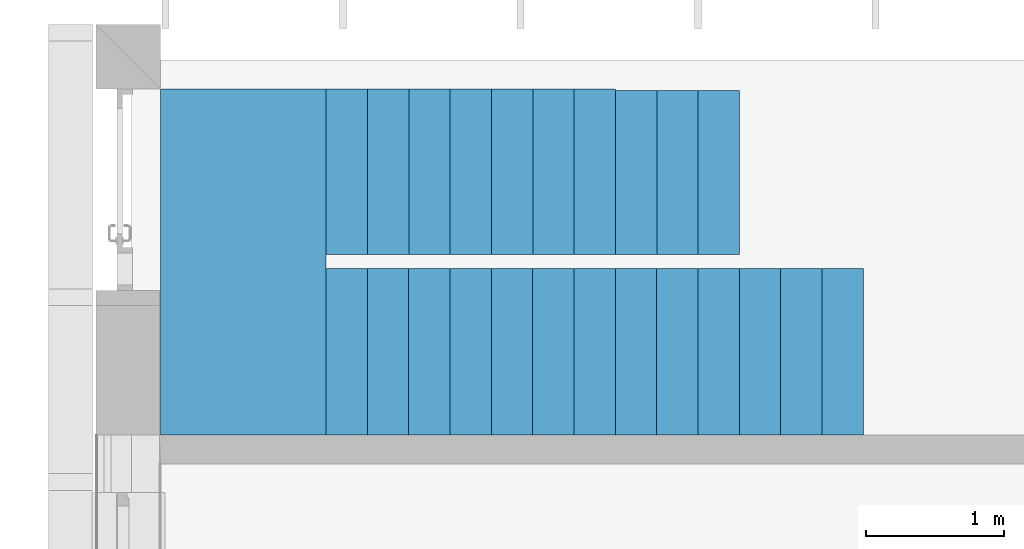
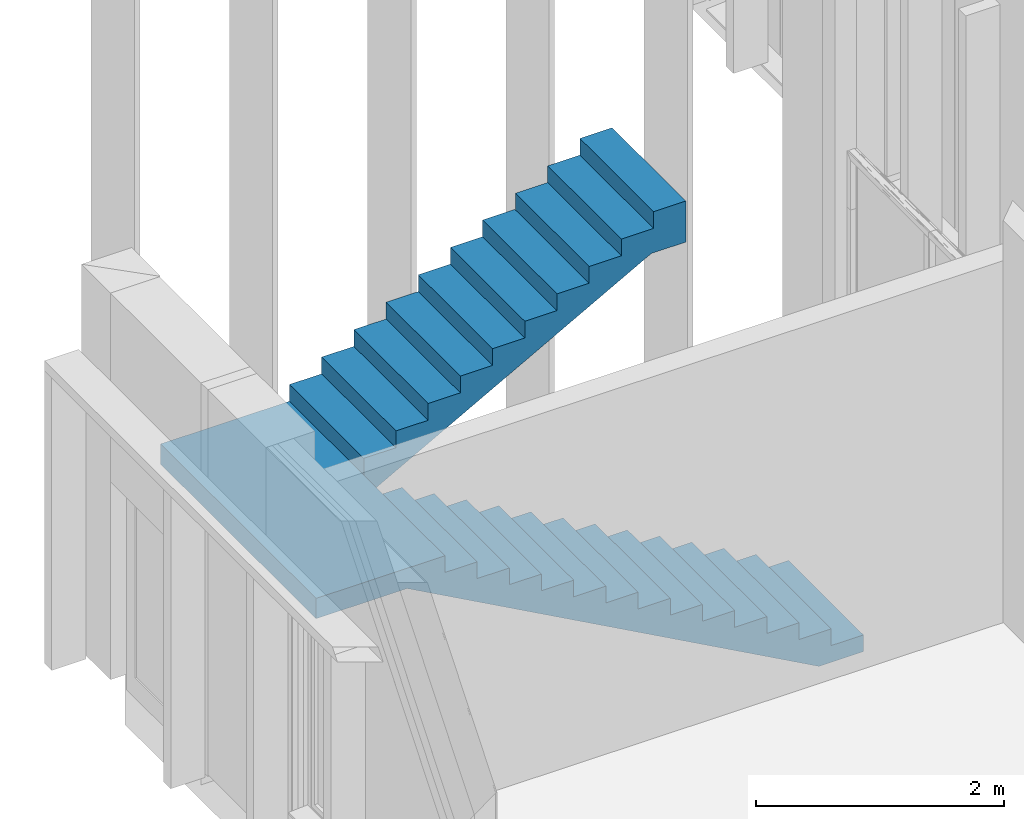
# One storey, part 45 of 89: 1 stair.
"""IFC2X3 building model written with IfcOpenShell, lengths in millimetres."""

from ifc_helpers import new_model, entity, si_unit, converted_unit, derived_unit, money_unit, direction, frame, origin_with_axes, place, context, subcontext, project, spatial, faceted_brep, material, material_list, element, save


model = new_model("IFC2X3")

# Units and contexts
model_context = context("Model", 3, precision=0.01, world=origin_with_axes(), true_north=direction((0.0, 1.0)))
body_context = subcontext(model_context, "Body", "Model", "MODEL_VIEW")
ifc_project = project(units=[si_unit("LENGTHUNIT", "METRE", prefix="MILLI"), si_unit("AREAUNIT", "SQUARE_METRE"), si_unit("VOLUMEUNIT", "CUBIC_METRE"), converted_unit("PLANEANGLEUNIT", "DEGREE", entity("IfcPlaneAngleMeasure", 0.0174532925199), si_unit("PLANEANGLEUNIT", "RADIAN"), dimensions=[0, 0, 0, 0, 0, 0, 0]), si_unit("SOLIDANGLEUNIT", "STERADIAN"), money_unit("EUR"), converted_unit("TIMEUNIT", "Year", entity("IfcTimeMeasure", 31556926.0), si_unit("TIMEUNIT", "SECOND"), dimensions=[0, 0, 1, 0, 0, 0, 0]), si_unit("MASSUNIT", "GRAM", prefix="KILO"), si_unit("THERMODYNAMICTEMPERATUREUNIT", "DEGREE_CELSIUS"), si_unit("LUMINOUSINTENSITYUNIT", "LUMEN"), si_unit("ENERGYUNIT", "JOULE", prefix="MEGA"), derived_unit("THERMALCONDUCTANCEUNIT", [(si_unit("POWERUNIT", "WATT"), 1), (si_unit("LENGTHUNIT", "METRE"), -1), (si_unit("THERMODYNAMICTEMPERATUREUNIT", "KELVIN"), -1)]), derived_unit("SPECIFICHEATCAPACITYUNIT", [(si_unit("ENERGYUNIT", "JOULE"), 1), (si_unit("MASSUNIT", "GRAM", prefix="KILO"), -1), (si_unit("THERMODYNAMICTEMPERATUREUNIT", "KELVIN"), -1)]), derived_unit("MASSDENSITYUNIT", [(si_unit("MASSUNIT", "GRAM", prefix="KILO"), 1), (si_unit("VOLUMEUNIT", "CUBIC_METRE"), -1)])], contexts=[model_context])

# Site, building, storey
site_placement = place(None, origin_with_axes())
site = spatial("IfcSite", under=ifc_project, at=site_placement, Name="Puškini 31, Narva", CompositionType="ELEMENT")
building_placement = place(site_placement, origin_with_axes())
building = spatial("IfcBuilding", under=site, at=building_placement, Name="Narva Riigigümnaasium", CompositionType="ELEMENT")
storey_placement = place(building_placement, frame((0.0, 0.0, -3300.0), z_axis=(0.0, 0.0, 1.0), x_axis=(1.0, 0.0, 0.0)))
storey = spatial("IfcBuildingStorey", under=building, at=storey_placement, Name="1.korrus -3.3", CompositionType="ELEMENT", Elevation=-3300.0)

# Stair
ifc_material = material(Name="Betoon element")
ifc_material_list = material_list([ifc_material, ifc_material, ifc_material])
stair_placement = place(storey_placement, frame((33509.3293405, 222489.999999, 0.0), z_axis=(0.0, 0.0, 1.0), x_axis=(-1.0, 0.0, 0.0)))
element("IfcStair", 1, at=stair_placement, inside=storey, material=ifc_material_list, Name="G-TR-07", ShapeType="NOTDEFINED", context=body_context, shape_type="Brep", body=[
    faceted_brep([(3900.00001091, 6.0760909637e-06, 2110.0), (3900.00001091, 1209.9999995, 2110.0), (3899.99999992, 1209.9999995, 2145.0), (3899.99999992, 0.0, 2145.0), (4251.37135303, 6.0760909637e-06, 2110.0), (4251.37135303, 1209.9999995, 2110.0), (3900.00001091, 1209.9999995, 1916.74576184), (3799.99999992, 1209.9999995, 1861.74575579), (3699.99999993, 1209.9999995, 1806.74575579), (3599.99999993, 1209.9999995, 1751.74575579), (3499.99999993, 1209.9999995, 1696.74575579), (3399.99999993, 1209.9999995, 1641.74575579), (3299.99999993, 1209.9999995, 1586.74575579), (3199.99999994, 1209.9999995, 1531.74575579), (3099.99999994, 1209.9999995, 1476.74575579), (2999.99999994, 1209.9999995, 1421.74575579), (2899.99999994, 1209.9999995, 1366.74575579), (2799.99999994, 1209.9999995, 1311.74575579), (2699.99999995, 1209.9999995, 1256.74575579), (2599.99999995, 1209.9999995, 1201.74575579), (2499.99999995, 1209.9999995, 1146.74575579), (2399.99999995, 1209.9999995, 1091.74575579), (2299.99999995, 1209.9999995, 1036.74575579), (2199.99999996, 1209.9999995, 981.745755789), (2099.99999996, 1209.9999995, 926.745755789), (1999.99999996, 1209.9999995, 871.745755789), (1899.99999996, 1209.9999995, 816.745755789), (1799.99999996, 1209.9999995, 761.745755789), (1699.99999997, 1209.9999995, 706.745755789), (1599.99999997, 1209.9999995, 651.745755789), (1499.99999997, 1209.9999995, 596.745755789), (1399.99999997, 1209.9999995, 541.745755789), (1299.99999997, 1209.9999995, 486.745755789), (1199.99999998, 1209.9999995, 431.745755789), (1099.99999998, 1209.9999995, 376.745755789), (999.99999998, 1209.9999995, 321.745755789), (899.999999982, 1209.9999995, 266.745755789), (799.999999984, 1209.9999995, 211.745755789), (699.999999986, 1209.9999995, 156.745755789), (599.999999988, 1209.9999995, 101.745755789), (499.99999999, 1209.9999995, 46.7457557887), (415.00771674, 1209.9999995, 0.0), (0.0, 1209.9999995, 0.0), (0.0, 1209.9999995, 165.0), (299.999999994, 1209.9999995, 165.0), (299.999999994, 1209.9999995, 330.0), (599.999999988, 1209.9999995, 330.0), (599.999999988, 1209.9999995, 495.0), (899.999999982, 1209.9999995, 495.0), (899.999999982, 1209.9999995, 660.0), (1199.99999998, 1209.9999995, 660.0), (1199.99999998, 1209.9999995, 825.0), (1499.99999997, 1209.9999995, 825.0), (1499.99999997, 1209.9999995, 990.0), (1799.99999996, 1209.9999995, 990.0), (1799.99999996, 1209.9999995, 1155.0), (2099.99999996, 1209.9999995, 1155.0), (2099.99999996, 1209.9999995, 1320.0), (2399.99999995, 1209.9999995, 1320.0), (2399.99999995, 1209.9999995, 1485.0), (2699.99999995, 1209.9999995, 1485.0), (2699.99999995, 1209.9999995, 1650.0), (2999.99999994, 1209.9999995, 1650.0), (2999.99999994, 1209.9999995, 1815.0), (3299.99999993, 1209.9999995, 1815.0), (3299.99999993, 1209.9999995, 1980.0), (3599.99999993, 1209.9999995, 1980.0), (3599.99999993, 1209.9999995, 2145.0), (3599.99999993, 0.0, 2145.0), (3599.99999993, 0.0, 1980.0), (3299.99999993, 0.0, 1980.0), (3299.99999993, 0.0, 1815.0), (2999.99999994, 0.0, 1815.0), (2999.99999994, 0.0, 1650.0), (2699.99999995, 0.0, 1650.0), (2699.99999995, 0.0, 1485.0), (2399.99999995, 0.0, 1485.0), (2399.99999995, 0.0, 1320.0), (2099.99999996, 0.0, 1320.0), (2099.99999996, 0.0, 1155.0), (1799.99999996, 0.0, 1155.0), (1799.99999996, 0.0, 990.0), (1499.99999997, 0.0, 990.0), (1499.99999997, 0.0, 825.0), (1199.99999998, 0.0, 825.0), (1199.99999998, 0.0, 660.0), (899.999999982, 0.0, 660.0), (899.999999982, 0.0, 495.0), (599.999999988, 0.0, 495.0), (599.999999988, 0.0, 330.0), (299.999999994, 0.0, 330.0), (299.999999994, 0.0, 165.0), (0.0, 0.0, 165.0), (0.0, 0.0, 0.0), (415.00771674, 0.0, 0.0), (499.99999999, 0.0, 46.7457557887), (599.999999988, 0.0, 101.745755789), (699.999999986, 0.0, 156.745755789), (799.999999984, 0.0, 211.745755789), (899.999999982, 0.0, 266.745755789), (999.99999998, 0.0, 321.745755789), (1099.99999998, 0.0, 376.745755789), (1199.99999998, 0.0, 431.745755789), (1299.99999997, 0.0, 486.745755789), (1399.99999997, 0.0, 541.745755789), (1499.99999997, 0.0, 596.745755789), (1599.99999997, 0.0, 651.745755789), (1699.99999997, 0.0, 706.745755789), (1799.99999996, 0.0, 761.745755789), (1899.99999996, 0.0, 816.745755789), (1999.99999996, 0.0, 871.745755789), (2099.99999996, 0.0, 926.745755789), (2199.99999996, 0.0, 981.745755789), (2299.99999995, 0.0, 1036.74575579), (2399.99999995, 0.0, 1091.74575579), (2499.99999995, 0.0, 1146.74575579), (2599.99999995, 0.0, 1201.74575579), (2699.99999995, 0.0, 1256.74575579), (2799.99999994, 0.0, 1311.74575579), (2899.99999994, 0.0, 1366.74575579), (2999.99999994, 0.0, 1421.74575579), (3099.99999994, 0.0, 1476.74575579), (3199.99999994, 0.0, 1531.74575579), (3299.99999993, 0.0, 1586.74575579), (3399.99999993, 0.0, 1641.74575579), (3499.99999993, 0.0, 1696.74575579), (3599.99999993, 0.0, 1751.74575579), (3699.99999993, 0.0, 1806.74575579), (3799.99999992, 0.0, 1861.74575579), (3900.00001091, 6.0760909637e-06, 1916.74576184)], [[[0, 1, 2, 3]], [[1, 0, 4, 5]], [[6, 7, 8, 9, 10, 11, 12, 13, 14, 15, 16, 17, 18, 19, 20, 21, 22, 23, 24, 25, 26, 27, 28, 29, 30, 31, 32, 33, 34, 35, 36, 37, 38, 39, 40, 41, 42, 43, 44, 45, 46, 47, 48, 49, 50, 51, 52, 53, 54, 55, 56, 57, 58, 59, 60, 61, 62, 63, 64, 65, 66, 67, 2, 1, 5]], [[68, 3, 2, 67]], [[0, 3, 68, 69, 70, 71, 72, 73, 74, 75, 76, 77, 78, 79, 80, 81, 82, 83, 84, 85, 86, 87, 88, 89, 90, 91, 92, 93, 94, 95, 96, 97, 98, 99, 100, 101, 102, 103, 104, 105, 106, 107, 108, 109, 110, 111, 112, 113, 114, 115, 116, 117, 118, 119, 120, 121, 122, 123, 124, 125, 126, 127, 128, 129, 4]], [[129, 128, 7, 6, 5, 4]], [[127, 8, 7, 128]], [[126, 9, 8, 127]], [[125, 10, 9, 126]], [[124, 11, 10, 125]], [[123, 12, 11, 124]], [[122, 13, 12, 123]], [[121, 14, 13, 122]], [[120, 15, 14, 121]], [[119, 16, 15, 120]], [[118, 17, 16, 119]], [[117, 18, 17, 118]], [[116, 19, 18, 117]], [[115, 20, 19, 116]], [[114, 21, 20, 115]], [[113, 22, 21, 114]], [[112, 23, 22, 113]], [[111, 24, 23, 112]], [[110, 25, 24, 111]], [[109, 26, 25, 110]], [[108, 27, 26, 109]], [[107, 28, 27, 108]], [[106, 29, 28, 107]], [[105, 30, 29, 106]], [[104, 31, 30, 105]], [[103, 32, 31, 104]], [[102, 33, 32, 103]], [[101, 34, 33, 102]], [[100, 35, 34, 101]], [[99, 36, 35, 100]], [[98, 37, 36, 99]], [[97, 38, 37, 98]], [[96, 39, 38, 97]], [[95, 40, 39, 96]], [[94, 41, 40, 95]], [[93, 42, 41, 94]], [[42, 93, 92, 43]], [[43, 92, 91, 44]], [[90, 45, 44, 91]], [[45, 90, 89, 46]], [[88, 47, 46, 89]], [[47, 88, 87, 48]], [[86, 49, 48, 87]], [[49, 86, 85, 50]], [[84, 51, 50, 85]], [[51, 84, 83, 52]], [[82, 53, 52, 83]], [[53, 82, 81, 54]], [[80, 55, 54, 81]], [[55, 80, 79, 56]], [[78, 57, 56, 79]], [[57, 78, 77, 58]], [[76, 59, 58, 77]], [[59, 76, 75, 60]], [[74, 61, 60, 75]], [[61, 74, 73, 62]], [[72, 63, 62, 73]], [[63, 72, 71, 64]], [[70, 65, 64, 71]], [[65, 70, 69, 66]], [[68, 67, 66, 69]]]),
    faceted_brep([(3898.91763588, -100.000017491, 2110.0), (3898.91763588, -1300.00000108, 2110.0), (3898.91763588, -1300.00000108, 2310.0), (3898.91763588, -100.000017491, 2310.0), (3900.00001091, -100.000017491, 2110.0), (3900.00001091, 6.07607830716e-06, 2110.0), (3900.00001091, 1209.9999995, 2110.0), (5099.9999945, 1209.9999995, 2110.0), (5099.9999945, -1300.00000108, 2110.0), (5099.9999945, -1300.00000108, 2310.0), (5099.9999945, 1209.9999995, 2310.0), (3900.00001091, 1209.9999995, 2310.0), (3900.00001091, 6.07607830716e-06, 2310.0), (3900.00001091, -100.000017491, 2310.0)], [[[0, 1, 2, 3]], [[0, 4, 5, 6, 7, 8, 1]], [[1, 8, 9, 2]], [[3, 2, 9, 10, 11, 12, 13]], [[4, 0, 3, 13]], [[5, 4, 13, 12]], [[6, 5, 12, 11]], [[7, 6, 11, 10]], [[8, 7, 10, 9]]]),
    faceted_brep([(1298.91763593, -1290.00000108, 3511.74575577), (1220.27355549, -1290.00000108, 3555.0), (1220.27355549, -100.000001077, 3555.0), (1298.91763593, -100.000001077, 3511.74575577), (898.917635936, -1290.00000108, 3555.0), (1398.91763593, -1290.00000108, 3456.74575579), (1498.91763592, -1290.00000108, 3401.74575584), (1573.91763648, -1290.00000108, 3360.49575571), (1648.91763704, -1290.00000108, 3319.24575556), (1723.9176376, -1290.00000108, 3277.99575537), (1798.91763816, -1290.00000108, 3236.74575395), (1798.91763816, -1290.00000108, 3465.0), (1798.91763816, -1290.00000108, 3630.0), (1498.91763592, -1290.00000108, 3630.0), (1498.91763592, -1290.00000108, 3795.0), (1198.91763593, -1290.00000108, 3795.0), (1198.91763593, -1290.00000108, 3960.0), (898.917635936, -1290.00000108, 3960.0), (898.917635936, -1290.00000108, 3731.74575579), (898.917635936, -100.000001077, 3555.0), (898.917635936, -100.000001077, 3731.74575579), (898.917635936, -100.000001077, 3960.0), (1198.91763593, -100.000001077, 3960.0), (1198.91763593, -100.000001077, 3795.0), (1498.91763592, -100.000001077, 3795.0), (1498.91763592, -100.000001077, 3630.0), (1798.91763816, -100.000001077, 3630.0), (1798.91763816, -100.000001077, 3465.0), (2098.91763591, -100.000001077, 3465.0), (2098.91763591, -100.000001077, 3300.0), (2398.91763591, -100.000001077, 3300.0), (2398.91763591, -100.000001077, 3135.0), (2698.9176359, -100.000001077, 3135.0), (2698.9176359, -100.000001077, 2970.0), (2998.91763589, -100.000001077, 2970.0), (2998.91763589, -100.000001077, 2805.0), (3298.91763589, -100.000001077, 2805.0), (3298.91763589, -100.000001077, 2640.0), (3598.91763588, -100.000001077, 2640.0), (3598.91763588, -100.000001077, 2475.0), (3898.91763588, -100.000001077, 2475.0), (3898.91763588, -100.000001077, 2110.0), (3847.54628277, -100.000001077, 2110.0), (3798.91763588, -100.000001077, 2136.74575579), (3698.91763588, -100.000001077, 2191.74575579), (3598.91763588, -100.000001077, 2246.74575579), (3498.91763588, -100.000001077, 2301.74575579), (3398.91763589, -100.000001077, 2356.74575579), (3298.91763589, -100.000001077, 2411.74575579), (3198.91763589, -100.000001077, 2466.74575579), (3098.91763589, -100.000001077, 2521.74575579), (2998.91763589, -100.000001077, 2576.74575579), (2898.9176359, -100.000001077, 2631.74575579), (2798.9176359, -100.000001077, 2686.74575579), (2698.9176359, -100.000001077, 2741.74575579), (2598.9176359, -100.000001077, 2796.74575579), (2498.9176359, -100.000001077, 2851.74575578), (2398.91763591, -100.000001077, 2906.74575578), (2298.91763591, -100.000001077, 2961.74575575), (2198.91763591, -100.000001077, 3016.74575572), (2098.91763591, -100.000001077, 3071.7457557), (2023.91763591, -100.000001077, 3112.99575564), (1998.91763591, -100.000001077, 3126.7457556), (1948.91763592, -100.000001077, 3154.24575559), (1898.91763592, -100.000001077, 3181.74575561), (1873.91763592, -100.000001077, 3195.49575545), (1798.91763592, -100.000001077, 3236.74575509), (1723.9176376, -100.000001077, 3277.99575538), (1648.91763704, -100.000001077, 3319.24575556), (1573.91763648, -100.000001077, 3360.49575571), (1498.91763592, -100.000001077, 3401.74575584), (1398.91763593, -100.000001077, 3456.74575579), (1798.91763592, -1300.00000108, 3236.74575518), (1798.91763592, -1300.00000108, 3465.0), (2098.91763591, -1300.00000108, 3465.0), (2098.91763591, -1300.00000108, 3300.0), (2398.91763591, -1300.00000108, 3300.0), (2398.91763591, -1300.00000108, 3135.0), (2698.9176359, -1300.00000108, 3135.0), (2698.9176359, -1300.00000108, 2970.0), (2998.91763589, -1300.00000108, 2970.0), (2998.91763589, -1300.00000108, 2805.0), (3298.91763589, -1300.00000108, 2805.0), (3298.91763589, -1300.00000108, 2640.0), (3598.91763588, -1300.00000108, 2640.0), (3598.91763588, -1300.00000108, 2475.0), (3898.91763588, -1300.00000108, 2475.0), (3898.91763588, -1300.00000108, 2110.0), (3847.54628277, -1300.00000108, 2110.0), (3798.91763588, -1300.00000108, 2136.74575579), (3698.91763588, -1300.00000108, 2191.74575579), (3598.91763588, -1300.00000108, 2246.74575579), (3498.91763588, -1300.00000108, 2301.74575579), (3398.91763589, -1300.00000108, 2356.74575579), (3298.91763589, -1300.00000108, 2411.74575579), (3198.91763589, -1300.00000108, 2466.74575579), (3098.91763589, -1300.00000108, 2521.74575579), (2998.91763589, -1300.00000108, 2576.74575579), (2898.9176359, -1300.00000108, 2631.74575579), (2798.9176359, -1300.00000108, 2686.74575579), (2698.9176359, -1300.00000108, 2741.74575579), (2598.9176359, -1300.00000108, 2796.74575579), (2498.9176359, -1300.00000108, 2851.74575579), (2398.91763591, -1300.00000108, 2906.74575578), (2298.91763591, -1300.00000108, 2961.74575576), (2198.91763591, -1300.00000108, 3016.74575573), (2098.91763591, -1300.00000108, 3071.7457557), (2023.91763591, -1300.00000108, 3112.99575564), (1998.91763591, -1300.00000108, 3126.7457556), (1948.91763592, -1300.00000108, 3154.24575556), (1898.91763592, -1300.00000108, 3181.74575556), (1873.91763592, -1300.00000108, 3195.49575548)], [[[0, 1, 2, 3]], [[4, 1, 0, 5, 6, 7, 8, 9, 10, 11, 12, 13, 14, 15, 16, 17, 18]], [[19, 2, 1, 4]], [[3, 2, 19, 20, 21, 22, 23, 24, 25, 26, 27, 28, 29, 30, 31, 32, 33, 34, 35, 36, 37, 38, 39, 40, 41, 42, 43, 44, 45, 46, 47, 48, 49, 50, 51, 52, 53, 54, 55, 56, 57, 58, 59, 60, 61, 62, 63, 64, 65, 66, 67, 68, 69, 70, 71]], [[71, 5, 0, 3]], [[70, 6, 5, 71]], [[69, 7, 6, 70]], [[68, 8, 7, 69]], [[67, 9, 8, 68]], [[66, 10, 9, 67]], [[72, 73, 11, 10]], [[11, 27, 26, 12]], [[25, 13, 12, 26]], [[13, 25, 24, 14]], [[23, 15, 14, 24]], [[15, 23, 22, 16]], [[22, 21, 17, 16]], [[17, 21, 20, 18]], [[19, 4, 18, 20]], [[11, 73, 74, 28, 27]], [[75, 29, 28, 74]], [[29, 75, 76, 30]], [[77, 31, 30, 76]], [[31, 77, 78, 32]], [[79, 33, 32, 78]], [[33, 79, 80, 34]], [[81, 35, 34, 80]], [[35, 81, 82, 36]], [[83, 37, 36, 82]], [[37, 83, 84, 38]], [[85, 39, 38, 84]], [[39, 85, 86, 40]], [[40, 86, 87, 41]], [[87, 88, 42, 41]], [[89, 43, 42, 88]], [[43, 89, 90, 44]], [[44, 90, 91, 45]], [[45, 91, 92, 46]], [[46, 92, 93, 47]], [[47, 93, 94, 48]], [[48, 94, 95, 49]], [[49, 95, 96, 50]], [[50, 96, 97, 51]], [[51, 97, 98, 52]], [[52, 98, 99, 53]], [[53, 99, 100, 54]], [[54, 100, 101, 55]], [[55, 101, 102, 56]], [[56, 102, 103, 57]], [[57, 103, 104, 58]], [[58, 104, 105, 59]], [[59, 105, 106, 60]], [[60, 106, 107, 61]], [[61, 107, 108, 62]], [[62, 108, 109, 63]], [[63, 109, 110, 64]], [[64, 110, 111, 65]], [[111, 72, 10, 66, 65]], [[92, 91, 90, 89, 88, 87, 86, 85, 84, 83, 82, 81, 80, 79, 78, 77, 76, 75, 74, 73, 72, 111, 110, 109, 108, 107, 106, 105, 104, 103, 102, 101, 100, 99, 98, 97, 96, 95, 94, 93]]]),
])

save(model, "model.ifc")
